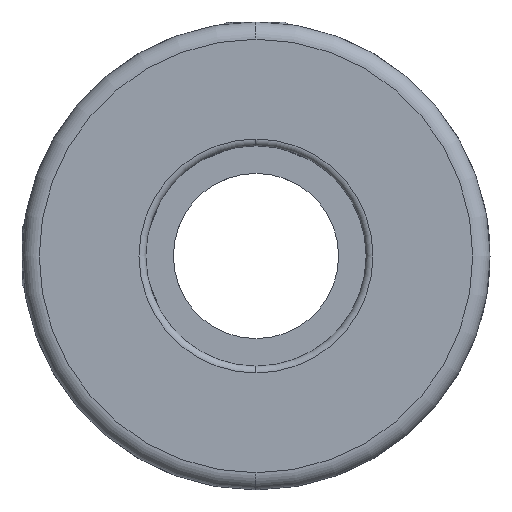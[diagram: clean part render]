
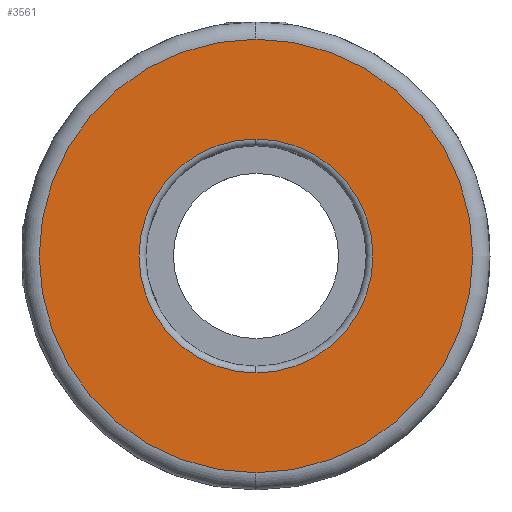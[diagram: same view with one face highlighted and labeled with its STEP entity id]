
A CAD part, left-side view. The second image highlights one B-rep face of the part: STEP entity #3561.
In plain terms, the highlighted planar face has unit normal (-1, 0, 0).
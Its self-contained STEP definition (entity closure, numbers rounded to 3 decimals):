
#30 = EDGE_CURVE ( 'NONE', #3980, #3467, #4698, .T. ) ;
#98 = AXIS2_PLACEMENT_3D ( 'NONE', #1023, #7573, #1929 ) ;
#100 = CARTESIAN_POINT ( 'NONE',  ( 0., 0., 8.5 ) ) ;
#121 = ORIENTED_EDGE ( 'NONE', *, *, #30, .T. ) ;
#397 = ORIENTED_EDGE ( 'NONE', *, *, #2397, .T. ) ;
#535 = FACE_BOUND ( 'NONE', #10827, .T. ) ;
#542 = FACE_OUTER_BOUND ( 'NONE', #9431, .T. ) ;
#662 = CARTESIAN_POINT ( 'NONE',  ( 0., 0., 0. ) ) ;
#1023 = CARTESIAN_POINT ( 'NONE',  ( 0., 0., 0. ) ) ;
#1489 = DIRECTION ( 'NONE',  ( 0., 0., -1. ) ) ;
#1833 = AXIS2_PLACEMENT_3D ( 'NONE', #662, #11067, #5272 ) ;
#1929 = DIRECTION ( 'NONE',  ( 0., 0., -1. ) ) ;
#1999 = CIRCLE ( 'NONE', #98, 15.75 ) ;
#2397 = EDGE_CURVE ( 'NONE', #7398, #2519, #1999, .T. ) ;
#2519 = VERTEX_POINT ( 'NONE', #3991 ) ;
#3274 = DIRECTION ( 'NONE',  ( 1., 0., 0. ) ) ;
#3347 = DIRECTION ( 'NONE',  ( -1., 0., 0. ) ) ;
#3467 = VERTEX_POINT ( 'NONE', #7103 ) ;
#3561 = ADVANCED_FACE ( 'NONE', ( #535, #542 ), #4305, .F. ) ;
#3980 = VERTEX_POINT ( 'NONE', #100 ) ;
#3991 = CARTESIAN_POINT ( 'NONE',  ( 0., 0., -15.75 ) ) ;
#4267 = CIRCLE ( 'NONE', #10016, 15.75 ) ;
#4305 = PLANE ( 'NONE',  #1833 ) ;
#4698 = CIRCLE ( 'NONE', #7086, 8.5 ) ;
#5030 = CARTESIAN_POINT ( 'NONE',  ( 0., 0., 0. ) ) ;
#5272 = DIRECTION ( 'NONE',  ( 0., 0., -1. ) ) ;
#6011 = DIRECTION ( 'NONE',  ( 0., 0., -1. ) ) ;
#6819 = EDGE_CURVE ( 'NONE', #3467, #3980, #9650, .T. ) ;
#7086 = AXIS2_PLACEMENT_3D ( 'NONE', #9046, #3274, #1489 ) ;
#7103 = CARTESIAN_POINT ( 'NONE',  ( 0., 0., -8.5 ) ) ;
#7398 = VERTEX_POINT ( 'NONE', #10219 ) ;
#7573 = DIRECTION ( 'NONE',  ( -1., 0., 0. ) ) ;
#8511 = AXIS2_PLACEMENT_3D ( 'NONE', #5030, #11787, #6011 ) ;
#9046 = CARTESIAN_POINT ( 'NONE',  ( 0., 0., 0. ) ) ;
#9136 = CARTESIAN_POINT ( 'NONE',  ( 0., 0., 0. ) ) ;
#9431 = EDGE_LOOP ( 'NONE', ( #10230, #397 ) ) ;
#9650 = CIRCLE ( 'NONE', #8511, 8.5 ) ;
#10016 = AXIS2_PLACEMENT_3D ( 'NONE', #9136, #3347, #10110 ) ;
#10110 = DIRECTION ( 'NONE',  ( 0., 0., -1. ) ) ;
#10131 = ORIENTED_EDGE ( 'NONE', *, *, #6819, .T. ) ;
#10219 = CARTESIAN_POINT ( 'NONE',  ( 0., 0., 15.75 ) ) ;
#10230 = ORIENTED_EDGE ( 'NONE', *, *, #11990, .T. ) ;
#10827 = EDGE_LOOP ( 'NONE', ( #10131, #121 ) ) ;
#11067 = DIRECTION ( 'NONE',  ( 1., 0., 0. ) ) ;
#11787 = DIRECTION ( 'NONE',  ( 1., 0., 0. ) ) ;
#11990 = EDGE_CURVE ( 'NONE', #2519, #7398, #4267, .T. ) ;
